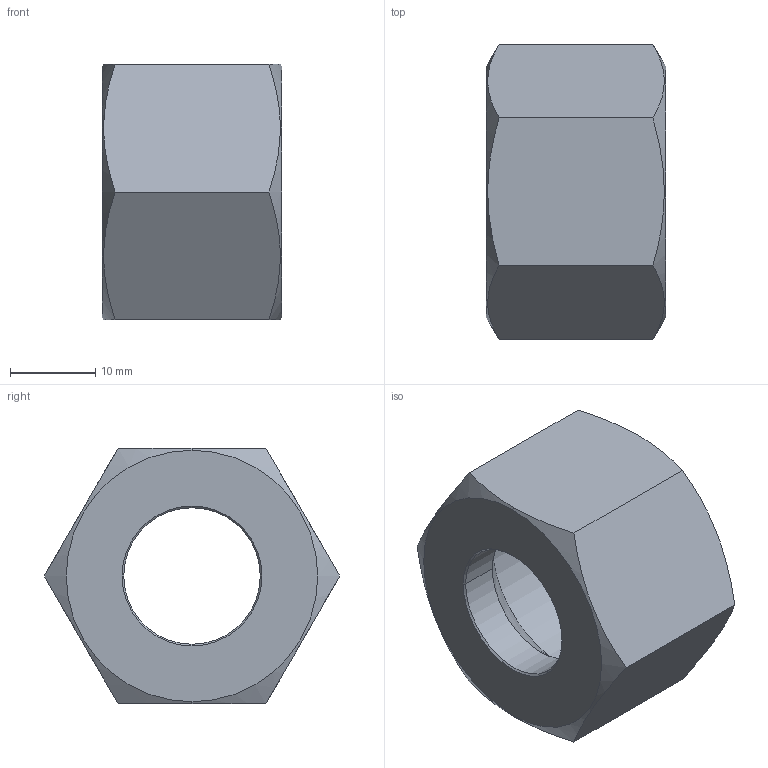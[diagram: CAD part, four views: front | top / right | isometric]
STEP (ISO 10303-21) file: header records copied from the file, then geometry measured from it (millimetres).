
FILE_DESCRIPTION((''),'2;1');
FILE_NAME('100219.stp','2006-03-06T15:10:27',('Dario Falcomer'),('CAST S.p.A.'),'AutoCAD STEP 2000i','AutoCAD 2000i',', , ');
FILE_SCHEMA(('CONFIG_CONTROL_DESIGN'));
Length unit declared in the file: millimetre
Products named in the file (2): 100219.0; CHIAVE_DADI#0
Assembly tree (1 placements, depth 2):
  100219.0
    CHIAVE_DADI#0
Bounding box: 21 x 34.64 x 30 mm (x, y, z)
Volume: 9097.3 mm3; surface area: 4432.5 mm2
Topology: 1 solids, 1 shells, 22 faces, 52 edges, 32 vertices
Faces by surface type: cone 10, plane 8, cylinder 4
Entity records: 725 total; most frequent: CARTESIAN_POINT 140, ORIENTED_EDGE 104, DIRECTION 100, EDGE_CURVE 52, AXIS2_PLACEMENT_3D 40, VERTEX_POINT 32, EDGE_LOOP 24, FACE_OUTER_BOUND 22
